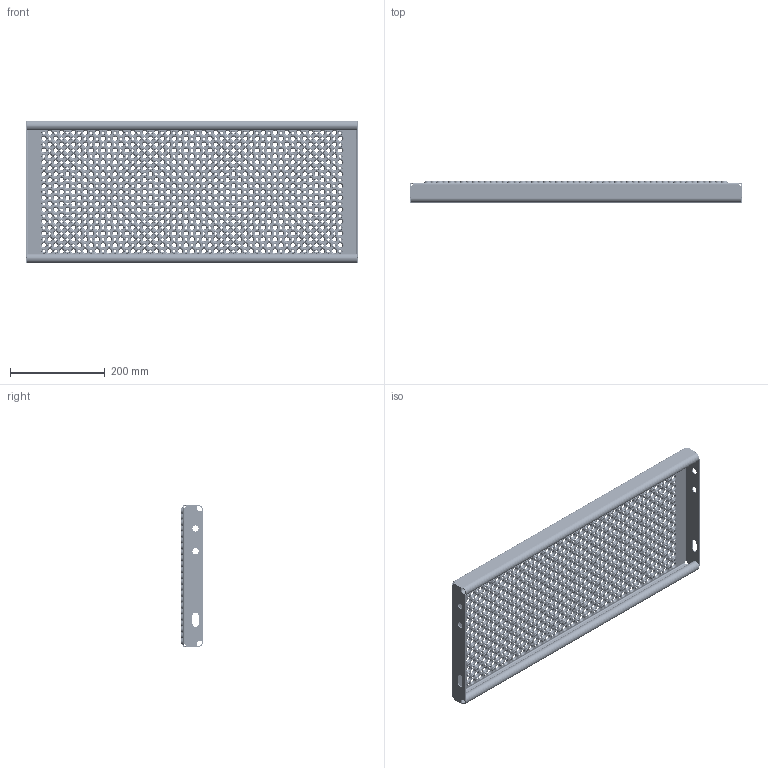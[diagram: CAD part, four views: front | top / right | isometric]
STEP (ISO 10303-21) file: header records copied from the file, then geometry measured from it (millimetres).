
FILE_DESCRIPTION (( 'STEP AP214' ), '1' );
FILE_NAME ('OPTIMO-Tread-Achil-O2-700x300x45x2-st240-F100500100.STEP', '2021-03-18T10:21:54', ( '' ), ( '' ), 'SwSTEP 2.0', 'SolidWorks 2021', '' );
FILE_SCHEMA (( 'AUTOMOTIVE_DESIGN' ));
Products named in the file (1): OPTIMO-Tread-Achil-O2-700x300x45x2-st240-F100500100
Bounding box: 700 x 45 x 300 mm (x, y, z)
Volume: 683554.1 mm3; surface area: 746116.3 mm2
Topology: 1 solids, 1 shells, 11816 faces, 30710 edges, 18896 vertices
Faces by surface type: cone 7038, torus 4692, cylinder 40, plane 38, bspline 8
Entity records: 376076 total; most frequent: DIRECTION 77820, CARTESIAN_POINT 62015, ORIENTED_EDGE 61420, AXIS2_PLACEMENT_3D 35333, EDGE_CURVE 30710, CIRCLE 23524, VERTEX_POINT 18896, EDGE_LOOP 14174
